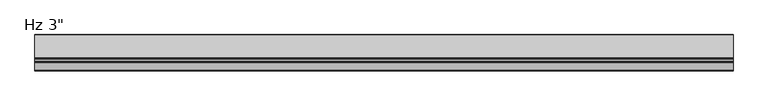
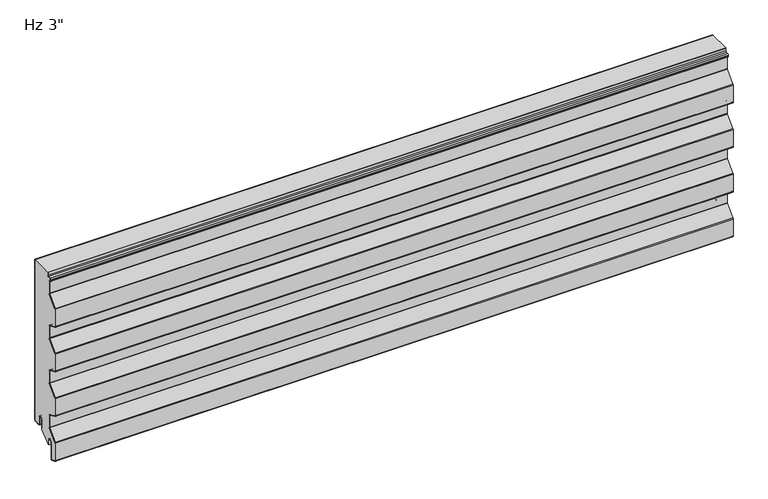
"""IFC4 building model written with IfcOpenShell, lengths in millimetres: plate geometry."""

import ifcopenshell
import ifcopenshell.guid

model = None  # the IFC model being written
_history = None  # IfcOwnerHistory: only IFC2X3 demands one
_inside = {}  # id of a spatial element -> (the spatial element, [elements in it])
_under = {}  # id of a project, library or spatial element -> (it, [spatial elements below it])
_declared = {}  # id of a project -> (the project, [libraries it declares])
_typed = {}  # id of a type object -> (the type object, [elements of that type])
_made_of = {}  # id of a material, layer set ... -> (it, [elements and type objects made of it])


def new_model(schema):
    """Start an empty IFC model of exactly this schema.

    Asked for "IFC4X3", IfcOpenShell would pick the latest addendum, in which some entities
    have other attributes; the version numbers below select the first issue.
    IFC2X3 requires an IfcOwnerHistory on every rooted entity: one is made here for all.
    """
    global model, _history
    if schema == "IFC4X3":
        model = ifcopenshell.file(schema_version=(4, 3, 0, 0))
    else:
        model = ifcopenshell.file(schema=schema)
    _inside.clear()
    _under.clear()
    _declared.clear()
    _typed.clear()
    _made_of.clear()
    _history = None
    if model.schema == "IFC2X3":
        org = make("IfcOrganization", Name="unknown")
        user = make(
            "IfcPersonAndOrganization",
            ThePerson=make("IfcPerson", FamilyName="unknown"),
            TheOrganization=org,
        )
        app = make(
            "IfcApplication",
            ApplicationDeveloper=org,
            Version="unknown",
            ApplicationFullName="unknown",
            ApplicationIdentifier="unknown",
        )
        _history = make(
            "IfcOwnerHistory",
            OwningUser=user,
            OwningApplication=app,
            ChangeAction="ADDED",
            CreationDate=0,
        )
    return model


def make(cls, **values):
    """One entity of the class cls with the attributes given. An attribute that is None is left unset."""
    return model.create_entity(
        cls, **{name: value for name, value in values.items() if value is not None}
    )


def rooted(cls, **values):
    """An entity with a GlobalId (a new one), such as an element, a storey or a relation."""
    return make(cls, GlobalId=ifcopenshell.guid.new(), OwnerHistory=_history, **values)


def si_unit(unit_type, name, prefix=None):
    """IfcSIUnit, for example si_unit("LENGTHUNIT", "METRE", prefix="MILLI")."""
    return make("IfcSIUnit", UnitType=unit_type, Prefix=prefix, Name=name)


def assignment(units):
    """IfcUnitAssignment: the units of a project."""
    return None if units is None else make("IfcUnitAssignment", Units=units)


def point(xyz):
    """IfcCartesianPoint."""
    return None if xyz is None else make("IfcCartesianPoint", Coordinates=xyz)


def direction(xyz):
    """IfcDirection."""
    return None if xyz is None else make("IfcDirection", DirectionRatios=xyz)


def frame(location, z_axis=None, x_axis=None):
    """IfcAxis2Placement3D, a coordinate frame: its origin and axes. An axis left out is left unset."""
    return make(
        "IfcAxis2Placement3D",
        Location=point(location),
        Axis=direction(z_axis),
        RefDirection=direction(x_axis),
    )


def frame_2d(location, x_axis=None):
    """IfcAxis2Placement2D, a coordinate frame in the plane: its origin and x axis."""
    return make(
        "IfcAxis2Placement2D", Location=point(location), RefDirection=direction(x_axis)
    )


def origin():
    """The frame at (0, 0, 0) with its axes left unset."""
    return frame((0.0, 0.0, 0.0))


def place(relative_to, where):
    """IfcLocalPlacement: puts the frame where relative to a parent placement (None: the world)."""
    return make(
        "IfcLocalPlacement", PlacementRelTo=relative_to, RelativePlacement=where
    )


def context(
    kind, dimensions, precision=None, world=None, true_north=None, identifier=None
):
    """IfcGeometricRepresentationContext, for example the 3D "Model" context."""
    return make(
        "IfcGeometricRepresentationContext",
        ContextIdentifier=identifier,
        ContextType=kind,
        CoordinateSpaceDimension=dimensions,
        Precision=precision,
        WorldCoordinateSystem=world,
        TrueNorth=true_north,
    )


def project(units=None, contexts=None):
    """IfcProject with its units and contexts."""
    return rooted(
        "IfcProject",
        Name="project",
        RepresentationContexts=contexts,
        UnitsInContext=assignment(units),
    )


def spatial(cls, under=None, at=None, **own):
    """A site, building, storey or space (cls), placed at a placement, below another one or the project."""
    s = rooted(cls, ObjectPlacement=at, **own)
    if under is not None:
        _under.setdefault(under.id(), (under, []))[1].append(s)
    return s


def polyline(points):
    """IfcPolyline through the points."""
    return make("IfcPolyline", Points=[point(p) for p in points])


def circle_curve(where, radius):
    """IfcCircle in the frame where."""
    return make("IfcCircle", Position=where, Radius=radius)


def trimmed(basis, trim1, trim2, sense, master):
    """IfcTrimmedCurve: the piece of a basis curve between two trims."""
    return make(
        "IfcTrimmedCurve",
        BasisCurve=basis,
        Trim1=trim1,
        Trim2=trim2,
        SenseAgreement=sense,
        MasterRepresentation=master,
    )


def segment(curve, same_sense, transition):
    """IfcCompositeCurveSegment."""
    return make(
        "IfcCompositeCurveSegment",
        Transition=transition,
        SameSense=same_sense,
        ParentCurve=curve,
    )


def composite_curve(segments, self_intersect=None):
    """IfcCompositeCurve: segments joined end to end."""
    return make("IfcCompositeCurve", Segments=segments, SelfIntersect=self_intersect)


def outline(outer, holes=None, kind="AREA"):
    """IfcArbitraryClosedProfileDef: a profile drawn as a closed curve; with holes, ...WithVoids."""
    if holes is None:
        return make("IfcArbitraryClosedProfileDef", ProfileType=kind, OuterCurve=outer)
    return make(
        "IfcArbitraryProfileDefWithVoids",
        ProfileType=kind,
        OuterCurve=outer,
        InnerCurves=holes,
    )


def extrude(swept, where, along, depth):
    """IfcExtrudedAreaSolid: the profile swept, set in the frame where, extruded along a direction by depth."""
    return make(
        "IfcExtrudedAreaSolid",
        SweptArea=swept,
        Position=where,
        ExtrudedDirection=direction(along),
        Depth=depth,
    )


def shape(context_of_items, identifier, shape_type, items):
    """IfcShapeRepresentation: the items that make up one representation, for example the "Body"."""
    return make(
        "IfcShapeRepresentation",
        ContextOfItems=context_of_items,
        RepresentationIdentifier=identifier,
        RepresentationType=shape_type,
        Items=items,
    )


def source(mapping_origin, context_of_items, identifier, shape_type, items):
    """IfcRepresentationMap: a shape defined once, which mapped items show again and again."""
    return make(
        "IfcRepresentationMap",
        MappingOrigin=mapping_origin,
        MappedRepresentation=shape(context_of_items, identifier, shape_type, items),
    )


def transform(
    local_origin,
    x_axis=None,
    y_axis=None,
    z_axis=None,
    scale=None,
    scale2=None,
    scale3=None,
    uniform=True,
):
    """IfcCartesianTransformationOperator3D, or its non-uniform kind. x_axis, y_axis, z_axis: its Axis1, 2, 3."""
    if uniform:
        return make(
            "IfcCartesianTransformationOperator3D",
            Axis1=direction(x_axis),
            Axis2=direction(y_axis),
            LocalOrigin=point(local_origin),
            Scale=scale,
            Axis3=direction(z_axis),
        )
    return make(
        "IfcCartesianTransformationOperator3DnonUniform",
        Axis1=direction(x_axis),
        Axis2=direction(y_axis),
        LocalOrigin=point(local_origin),
        Scale=scale,
        Axis3=direction(z_axis),
        Scale2=scale2,
        Scale3=scale3,
    )


def mapped(mapping_source, mapping_target):
    """IfcMappedItem: shows the shape of a source again, moved by a transform."""
    return make(
        "IfcMappedItem", MappingSource=mapping_source, MappingTarget=mapping_target
    )


def made_of(thing, what):
    """Note that an element or type object is made of a material, layer set ...; save() writes the relation."""
    if what is not None:
        _made_of.setdefault(what.id(), (what, []))[1].append(thing)
    return thing


def element(
    cls,
    number,
    at=None,
    inside=None,
    cuts=None,
    type_object=None,
    material=None,
    context=None,
    identifier="Body",
    shape_type=None,
    held_by="IfcProductDefinitionShape",
    body=None,
    shapes=None,
    **own,
):
    """One element of the class cls, such as IfcWall. Its Tag is "e" and its number.

    at: its placement. inside: the storey or other place that contains it. cuts: it is an
    opening in that element (IfcRelVoidsElement). A single representation is given by context,
    identifier, shape_type and body (its items); several are given by shapes. held_by: the class
    of the entity that holds the representations. save() writes the other relations.
    """
    e = rooted(cls, Tag="e%d" % number, ObjectPlacement=at, **own)
    if body is not None:
        shapes = [shape(context, identifier, shape_type, body)]
    if shapes is not None:
        e.Representation = make(held_by, Representations=shapes)
    if inside is not None:
        _inside.setdefault(inside.id(), (inside, []))[1].append(e)
    if cuts is not None:
        rooted(
            "IfcRelVoidsElement", RelatingBuildingElement=cuts, RelatedOpeningElement=e
        )
    if type_object is not None:
        _typed.setdefault(type_object.id(), (type_object, []))[1].append(e)
    return made_of(e, material)


def aggregate(whole, parts):
    """IfcRelAggregates: a whole, such as a stair, and the parts it consists of."""
    return rooted("IfcRelAggregates", RelatingObject=whole, RelatedObjects=parts)


def save(model, path):
    """Write the relations noted so far, then the file.

    IfcRelAggregates (storeys below a building ...), IfcRelContainedInSpatialStructure (elements
    in a storey), IfcRelDefinesByType, IfcRelAssociatesMaterial and IfcRelDeclares: one each for
    every whole, place, type object, material and project.
    """
    for whole, parts in _under.values():
        aggregate(whole, parts)
    for where, things in _inside.values():
        rooted(
            "IfcRelContainedInSpatialStructure",
            RelatedElements=things,
            RelatingStructure=where,
        )
    for kind, things in _typed.values():
        rooted("IfcRelDefinesByType", RelatedObjects=things, RelatingType=kind)
    for what, things in _made_of.values():
        rooted("IfcRelAssociatesMaterial", RelatedObjects=things, RelatingMaterial=what)
    for by, libraries in _declared.values():
        rooted("IfcRelDeclares", RelatingContext=by, RelatedDefinitions=libraries)
    model.write(path)


def plate_0c2debc7(model_context):
    return source(origin(), model_context, "Body", "SweptSolid", [
        extrude(outline(composite_curve([segment(polyline([(-26.4011912, 19.05), (-26.4011912, -3.1976612), (-49.233822, -23.01875), (-51.3886912, -23.01875), (-51.3886912, -11.90625)]), True, "CONTINUOUS"), segment(trimmed(circle_curve(frame_2d((-56.3574412, -11.90625)), 4.96875), [point((-51.3886912, -11.90625))], [point((-61.3261912, -11.90625))], True, "CARTESIAN"), True, "CONTINUOUS"), segment(polyline([(-61.3261912, -11.90625), (-61.3261912, -48.8194049)]), True, "CONTINUOUS"), segment(trimmed(circle_curve(frame_2d((-62.7074412, -48.8194049)), 1.38125), [point((-61.3261912, -48.8194049))], [point((-63.2666208, -50.0824052))], False, "CARTESIAN"), True, "CONTINUOUS"), segment(polyline([(-63.2666208, -50.0824052), (-74.3779296, -45.1629946)]), True, "CONTINUOUS"), segment(trimmed(circle_curve(frame_2d((-73.81875, -43.8999943)), 1.38125), [point((-74.3779296, -45.1629946))], [point((-75.2, -43.8999943))], False, "CARTESIAN"), True, "CONTINUOUS"), segment(polyline([(-75.2, -43.8999943), (-75.2, -5.0536946)]), True, "CONTINUOUS"), segment(trimmed(circle_curve(frame_2d((-73.1012, -5.0536946)), 2.0988), [point((-75.2, -5.0536946))], [point((-74.6092077, -3.5939431))], False, "CARTESIAN"), True, "CONTINUOUS"), segment(polyline([(-74.6092077, -3.5939431), (-54.4145567, 17.2682996)]), True, "CONTINUOUS"), segment(trimmed(circle_curve(frame_2d((-56.2737, 19.0679503)), 2.5875), [point((-54.4145567, 17.2682996))], [point((-53.6862, 19.0679503))], True, "CARTESIAN"), True, "CONTINUOUS"), segment(polyline([(-53.6862, 19.0679503), (-53.6862, 45.5917981)]), True, "CONTINUOUS"), segment(trimmed(circle_curve(frame_2d((-56.2737, 45.5917981)), 2.5875), [point((-53.6862, 45.5917981))], [point((-55.2261871, 47.9577806))], True, "CARTESIAN"), True, "CONTINUOUS"), segment(polyline([(-55.2261871, 47.9577806), (-74.3779296, 56.4370054)]), True, "CONTINUOUS"), segment(trimmed(circle_curve(frame_2d((-73.81875, 57.7000057)), 1.38125), [point((-74.3779296, 56.4370054))], [point((-75.2, 57.7000057))], False, "CARTESIAN"), True, "CONTINUOUS"), segment(polyline([(-75.2, 57.7000057), (-75.2, 96.8367131)]), True, "CONTINUOUS"), segment(trimmed(circle_curve(frame_2d((-73.81875, 96.8367131)), 1.38125), [point((-75.2, 96.8367131))], [point((-74.8111912, 97.7973962))], False, "CARTESIAN"), True, "CONTINUOUS"), segment(polyline([(-74.8111912, 97.7973962), (-54.4145567, 118.8682996)]), True, "CONTINUOUS"), segment(trimmed(circle_curve(frame_2d((-56.2737, 120.6679503)), 2.5875), [point((-54.4145567, 118.8682996))], [point((-53.6862, 120.6679503))], True, "CARTESIAN"), True, "CONTINUOUS"), segment(polyline([(-53.6862, 120.6679503), (-53.6862, 147.1917981)]), True, "CONTINUOUS"), segment(trimmed(circle_curve(frame_2d((-56.2737, 147.1917981)), 2.5875), [point((-53.6862, 147.1917981))], [point((-55.2261871, 149.5577806))], True, "CARTESIAN"), True, "CONTINUOUS"), segment(polyline([(-55.2261871, 149.5577806), (-74.3779296, 158.0370054)]), True, "CONTINUOUS"), segment(trimmed(circle_curve(frame_2d((-73.81875, 159.3000057)), 1.38125), [point((-74.3779296, 158.0370054))], [point((-75.2, 159.3000057))], False, "CARTESIAN"), True, "CONTINUOUS"), segment(polyline([(-75.2, 159.3000057), (-75.2, 198.4367131)]), True, "CONTINUOUS"), segment(trimmed(circle_curve(frame_2d((-73.81875, 198.4367131)), 1.38125), [point((-75.2, 198.4367131))], [point((-74.8111912, 199.3973962))], False, "CARTESIAN"), True, "CONTINUOUS"), segment(polyline([(-74.8111912, 199.3973962), (-54.4145567, 220.4682996)]), True, "CONTINUOUS"), segment(trimmed(circle_curve(frame_2d((-56.2737, 222.2679503)), 2.5875), [point((-54.4145567, 220.4682996))], [point((-53.6862, 222.2679503))], True, "CARTESIAN"), True, "CONTINUOUS"), segment(polyline([(-53.6862, 222.2679503), (-53.6862, 248.7917981)]), True, "CONTINUOUS"), segment(trimmed(circle_curve(frame_2d((-56.2737, 248.7917981)), 2.5875), [point((-53.6862, 248.7917981))], [point((-55.2261871, 251.1577806))], True, "CARTESIAN"), True, "CONTINUOUS"), segment(polyline([(-55.2261871, 251.1577806), (-74.3779296, 259.6370054)]), True, "CONTINUOUS"), segment(trimmed(circle_curve(frame_2d((-73.81875, 260.9000057)), 1.38125), [point((-74.3779296, 259.6370054))], [point((-75.2, 260.9000057))], False, "CARTESIAN"), True, "CONTINUOUS"), segment(polyline([(-75.2, 260.9000057), (-75.2, 300.0367131)]), True, "CONTINUOUS"), segment(trimmed(circle_curve(frame_2d((-73.81875, 300.0367131)), 1.38125), [point((-75.2, 300.0367131))], [point((-74.8111912, 300.9973962))], False, "CARTESIAN"), True, "CONTINUOUS"), segment(polyline([(-74.8111912, 300.9973962), (-54.4145567, 322.0682996)]), True, "CONTINUOUS"), segment(trimmed(circle_curve(frame_2d((-56.2737, 323.8679503)), 2.5875), [point((-54.4145567, 322.0682996))], [point((-53.6862, 323.8679503))], True, "CARTESIAN"), True, "CONTINUOUS"), segment(polyline([(-53.6862, 323.8679503), (-53.6862, 350.3917981)]), True, "CONTINUOUS"), segment(trimmed(circle_curve(frame_2d((-56.2737, 350.3917981)), 2.5875), [point((-53.6862, 350.3917981))], [point((-55.2261871, 352.7577806))], True, "CARTESIAN"), True, "CONTINUOUS"), segment(polyline([(-55.2261871, 352.7577806), (-56.9166208, 353.5062016)]), True, "CONTINUOUS"), segment(trimmed(circle_curve(frame_2d((-56.3574412, 354.7692019)), 1.38125), [point((-56.9166208, 353.5062016))], [point((-57.7386912, 354.7692019))], False, "CARTESIAN"), True, "CONTINUOUS"), segment(polyline([(-57.7386912, 354.7692019), (-57.7386912, 357.0967085)]), True, "CONTINUOUS"), segment(trimmed(circle_curve(frame_2d((-56.3574412, 357.0967085)), 1.38125), [point((-57.7386912, 357.0967085))], [point((-56.4297302, 358.4760655))], False, "CARTESIAN"), True, "CONTINUOUS"), segment(polyline([(-56.4297302, 358.4760655), (-50.6657719, 358.7781418)]), True, "CONTINUOUS"), segment(trimmed(circle_curve(frame_2d((-50.8011912, 361.3620957)), 2.5875), [point((-50.6657719, 358.7781418))], [point((-48.2136912, 361.3620957))], True, "CARTESIAN"), True, "CONTINUOUS"), segment(polyline([(-48.2136912, 361.3620957), (-48.2136912, 368.0), (-1.0011912, 368.0), (-1.0011912, 3.175)]), True, "CONTINUOUS"), segment(trimmed(circle_curve(frame_2d((-2.3824412, 3.175)), 1.38125), [point((-1.0011912, 3.175))], [point((-2.3824412, 1.79375))], False, "CARTESIAN"), True, "CONTINUOUS"), segment(polyline([(-2.3824412, 1.79375), (-15.0824412, 1.79375)]), True, "CONTINUOUS"), segment(trimmed(circle_curve(frame_2d((-15.0824412, 3.175)), 1.38125), [point((-15.0824412, 1.79375))], [point((-16.4636912, 3.175))], False, "CARTESIAN"), True, "CONTINUOUS"), segment(polyline([(-16.4636912, 3.175), (-16.4636912, 19.05)]), True, "CONTINUOUS"), segment(trimmed(circle_curve(frame_2d((-21.4324412, 19.05)), 4.96875), [point((-16.4636912, 19.05))], [point((-26.4011912, 19.05))], True, "CARTESIAN"), True, "CONTINUOUS")], self_intersect=False)), frame((-730.0, 0.0, 0.0), z_axis=(1.0, 0.0, 0.0), x_axis=(0.0, 1.0, 0.0)), (0.0, 0.0, 1.0), 1460.0),
        extrude(outline(composite_curve([segment(polyline([(-25.4, 0.79375), (-26.4, 0.79375), (-26.4, 19.05)]), True, "CONTINUOUS"), segment(trimmed(circle_curve(frame_2d((-21.43125, 19.05)), 4.96875), [point((-26.4, 19.05))], [point((-16.4625, 19.05))], False, "CARTESIAN"), True, "CONTINUOUS"), segment(polyline([(-16.4625, 19.05), (-16.4625, 3.175)]), True, "CONTINUOUS"), segment(trimmed(circle_curve(frame_2d((-15.08125, 3.175)), 1.38125), [point((-16.4625, 3.175))], [point((-15.08125, 1.79375))], True, "CARTESIAN"), True, "CONTINUOUS"), segment(polyline([(-15.08125, 1.79375), (-2.38125, 1.79375)]), True, "CONTINUOUS"), segment(trimmed(circle_curve(frame_2d((-2.38125, 3.175)), 1.38125), [point((-2.38125, 1.79375))], [point((-1.0, 3.175))], True, "CARTESIAN"), True, "CONTINUOUS"), segment(polyline([(-1.0, 3.175), (-1.0, 368.0), (0.0, 368.0), (0.0, 3.175)]), True, "CONTINUOUS"), segment(trimmed(circle_curve(frame_2d((-2.38125, 3.175)), 2.38125), [point((0.0, 3.175))], [point((-2.38125, 0.79375))], False, "CARTESIAN"), True, "CONTINUOUS"), segment(polyline([(-2.38125, 0.79375), (-15.08125, 0.79375)]), True, "CONTINUOUS"), segment(trimmed(circle_curve(frame_2d((-15.08125, 3.175)), 2.38125), [point((-15.08125, 0.79375))], [point((-17.4625, 3.175))], False, "CARTESIAN"), True, "CONTINUOUS"), segment(polyline([(-17.4625, 3.175), (-17.4625, 19.05)]), True, "CONTINUOUS"), segment(trimmed(circle_curve(frame_2d((-21.43125, 19.05)), 3.96875), [point((-17.4625, 19.05))], [point((-25.4, 19.05))], True, "CARTESIAN"), True, "CONTINUOUS"), segment(polyline([(-25.4, 19.05), (-25.4, 0.79375)]), True, "CONTINUOUS")], self_intersect=False)), frame((-730.0, 0.0, 0.0), z_axis=(1.0, 0.0, 0.0), x_axis=(0.0, 1.0, 0.0)), (0.0, 0.0, 1.0), 1460.0),
        extrude(outline(composite_curve([segment(polyline([(-60.3261912, -11.90625), (-60.3261912, -48.8194049)]), True, "CONTINUOUS"), segment(trimmed(circle_curve(frame_2d((-62.7074412, -48.8194049)), 2.38125), [point((-60.3261912, -48.8194049))], [point((-63.6714567, -50.9967946))], False, "CARTESIAN"), True, "CONTINUOUS"), segment(polyline([(-63.6714567, -50.9967946), (-74.7827655, -46.0773839)]), True, "CONTINUOUS"), segment(trimmed(circle_curve(frame_2d((-73.81875, -43.8999943)), 2.38125), [point((-74.7827655, -46.0773839))], [point((-76.2, -43.8999943))], False, "CARTESIAN"), True, "CONTINUOUS"), segment(polyline([(-76.2, -43.8999943), (-76.2, -5.0536946)]), True, "CONTINUOUS"), segment(trimmed(circle_curve(frame_2d((-73.1012, -5.0536946)), 3.0988), [point((-76.2, -5.0536946))], [point((-75.3277172, -2.8984259))], False, "CARTESIAN"), True, "CONTINUOUS"), segment(polyline([(-75.3277172, -2.8984259), (-55.1330662, 17.9638168)]), True, "CONTINUOUS"), segment(trimmed(circle_curve(frame_2d((-56.2737, 19.0679503)), 1.5875), [point((-55.1330662, 17.9638168))], [point((-54.6862, 19.0679503))], True, "CARTESIAN"), True, "CONTINUOUS"), segment(polyline([(-54.6862, 19.0679503), (-54.6862, 45.5917981)]), True, "CONTINUOUS"), segment(trimmed(circle_curve(frame_2d((-56.2737, 45.5917981)), 1.5875), [point((-54.6862, 45.5917981))], [point((-55.631023, 47.0433912))], True, "CARTESIAN"), True, "CONTINUOUS"), segment(polyline([(-55.631023, 47.0433912), (-74.7827655, 55.5226161)]), True, "CONTINUOUS"), segment(trimmed(circle_curve(frame_2d((-73.81875, 57.7000057)), 2.38125), [point((-74.7827655, 55.5226161))], [point((-76.2, 57.7000057))], False, "CARTESIAN"), True, "CONTINUOUS"), segment(polyline([(-76.2, 57.7000057), (-76.2, 96.8367131)]), True, "CONTINUOUS"), segment(trimmed(circle_curve(frame_2d((-73.81875, 96.8367131)), 2.38125), [point((-76.2, 96.8367131))], [point((-75.5297007, 98.4929134))], False, "CARTESIAN"), True, "CONTINUOUS"), segment(polyline([(-75.5297007, 98.4929134), (-55.1330662, 119.5638168)]), True, "CONTINUOUS"), segment(trimmed(circle_curve(frame_2d((-56.2737, 120.6679503)), 1.5875), [point((-55.1330662, 119.5638168))], [point((-54.6862, 120.6679503))], True, "CARTESIAN"), True, "CONTINUOUS"), segment(polyline([(-54.6862, 120.6679503), (-54.6862, 147.1917981)]), True, "CONTINUOUS"), segment(trimmed(circle_curve(frame_2d((-56.2737, 147.1917981)), 1.5875), [point((-54.6862, 147.1917981))], [point((-55.631023, 148.6433912))], True, "CARTESIAN"), True, "CONTINUOUS"), segment(polyline([(-55.631023, 148.6433912), (-74.7827655, 157.1226161)]), True, "CONTINUOUS"), segment(trimmed(circle_curve(frame_2d((-73.81875, 159.3000057)), 2.38125), [point((-74.7827655, 157.1226161))], [point((-76.2, 159.3000057))], False, "CARTESIAN"), True, "CONTINUOUS"), segment(polyline([(-76.2, 159.3000057), (-76.2, 198.4367131)]), True, "CONTINUOUS"), segment(trimmed(circle_curve(frame_2d((-73.81875, 198.4367131)), 2.38125), [point((-76.2, 198.4367131))], [point((-75.5297007, 200.0929134))], False, "CARTESIAN"), True, "CONTINUOUS"), segment(polyline([(-75.5297007, 200.0929134), (-55.1330662, 221.1638168)]), True, "CONTINUOUS"), segment(trimmed(circle_curve(frame_2d((-56.2737, 222.2679503)), 1.5875), [point((-55.1330662, 221.1638168))], [point((-54.6862, 222.2679503))], True, "CARTESIAN"), True, "CONTINUOUS"), segment(polyline([(-54.6862, 222.2679503), (-54.6862, 248.7917981)]), True, "CONTINUOUS"), segment(trimmed(circle_curve(frame_2d((-56.2737, 248.7917981)), 1.5875), [point((-54.6862, 248.7917981))], [point((-55.631023, 250.2433912))], True, "CARTESIAN"), True, "CONTINUOUS"), segment(polyline([(-55.631023, 250.2433912), (-74.7827655, 258.7226161)]), True, "CONTINUOUS"), segment(trimmed(circle_curve(frame_2d((-73.81875, 260.9000057)), 2.38125), [point((-74.7827655, 258.7226161))], [point((-76.2, 260.9000057))], False, "CARTESIAN"), True, "CONTINUOUS"), segment(polyline([(-76.2, 260.9000057), (-76.2, 300.0367131)]), True, "CONTINUOUS"), segment(trimmed(circle_curve(frame_2d((-73.81875, 300.0367131)), 2.38125), [point((-76.2, 300.0367131))], [point((-75.5297007, 301.6929134))], False, "CARTESIAN"), True, "CONTINUOUS"), segment(polyline([(-75.5297007, 301.6929134), (-55.1330662, 322.7638168)]), True, "CONTINUOUS"), segment(trimmed(circle_curve(frame_2d((-56.2737, 323.8679503)), 1.5875), [point((-55.1330662, 322.7638168))], [point((-54.6862, 323.8679503))], True, "CARTESIAN"), True, "CONTINUOUS"), segment(polyline([(-54.6862, 323.8679503), (-54.6862, 350.3917981)]), True, "CONTINUOUS"), segment(trimmed(circle_curve(frame_2d((-56.2737, 350.3917981)), 1.5875), [point((-54.6862, 350.3917981))], [point((-55.631023, 351.8433912))], True, "CARTESIAN"), True, "CONTINUOUS"), segment(polyline([(-55.631023, 351.8433912), (-57.3214567, 352.5918123)]), True, "CONTINUOUS"), segment(trimmed(circle_curve(frame_2d((-56.3574412, 354.7692019)), 2.38125), [point((-57.3214567, 352.5918123))], [point((-58.7386912, 354.7692019))], False, "CARTESIAN"), True, "CONTINUOUS"), segment(polyline([(-58.7386912, 354.7692019), (-58.7386912, 357.0967085)]), True, "CONTINUOUS"), segment(trimmed(circle_curve(frame_2d((-56.3574412, 357.0967085)), 2.38125), [point((-58.7386912, 357.0967085))], [point((-56.4820662, 359.4746951))], False, "CARTESIAN"), True, "CONTINUOUS"), segment(polyline([(-56.4820662, 359.4746951), (-50.7181078, 359.7767713)]), True, "CONTINUOUS"), segment(trimmed(circle_curve(frame_2d((-50.8011912, 361.3620957)), 1.5875), [point((-50.7181078, 359.7767713))], [point((-49.2136912, 361.3620957))], True, "CARTESIAN"), True, "CONTINUOUS"), segment(polyline([(-49.2136912, 361.3620957), (-49.2136912, 368.0), (-48.2136912, 368.0), (-48.2136912, 361.3620957)]), True, "CONTINUOUS"), segment(trimmed(circle_curve(frame_2d((-50.8011912, 361.3620957)), 2.5875), [point((-48.2136912, 361.3620957))], [point((-50.6657719, 358.7781418))], False, "CARTESIAN"), True, "CONTINUOUS"), segment(polyline([(-50.6657719, 358.7781418), (-56.4297302, 358.4760655)]), True, "CONTINUOUS"), segment(trimmed(circle_curve(frame_2d((-56.3574412, 357.0967085)), 1.38125), [point((-56.4297302, 358.4760655))], [point((-57.7386912, 357.0967085))], True, "CARTESIAN"), True, "CONTINUOUS"), segment(polyline([(-57.7386912, 357.0967085), (-57.7386912, 354.7692019)]), True, "CONTINUOUS"), segment(trimmed(circle_curve(frame_2d((-56.3574412, 354.7692019)), 1.38125), [point((-57.7386912, 354.7692019))], [point((-56.9166208, 353.5062016))], True, "CARTESIAN"), True, "CONTINUOUS"), segment(polyline([(-56.9166208, 353.5062016), (-55.2261871, 352.7577806)]), True, "CONTINUOUS"), segment(trimmed(circle_curve(frame_2d((-56.2737, 350.3917981)), 2.5875), [point((-55.2261871, 352.7577806))], [point((-53.6862, 350.3917981))], False, "CARTESIAN"), True, "CONTINUOUS"), segment(polyline([(-53.6862, 350.3917981), (-53.6862, 323.8679503)]), True, "CONTINUOUS"), segment(trimmed(circle_curve(frame_2d((-56.2737, 323.8679503)), 2.5875), [point((-53.6862, 323.8679503))], [point((-54.4145567, 322.0682996))], False, "CARTESIAN"), True, "CONTINUOUS"), segment(polyline([(-54.4145567, 322.0682996), (-74.8111912, 300.9973962)]), True, "CONTINUOUS"), segment(trimmed(circle_curve(frame_2d((-73.81875, 300.0367131)), 1.38125), [point((-74.8111912, 300.9973962))], [point((-75.2, 300.0367131))], True, "CARTESIAN"), True, "CONTINUOUS"), segment(polyline([(-75.2, 300.0367131), (-75.2, 260.9000057)]), True, "CONTINUOUS"), segment(trimmed(circle_curve(frame_2d((-73.81875, 260.9000057)), 1.38125), [point((-75.2, 260.9000057))], [point((-74.3779296, 259.6370054))], True, "CARTESIAN"), True, "CONTINUOUS"), segment(polyline([(-74.3779296, 259.6370054), (-55.2261871, 251.1577806)]), True, "CONTINUOUS"), segment(trimmed(circle_curve(frame_2d((-56.2737, 248.7917981)), 2.5875), [point((-55.2261871, 251.1577806))], [point((-53.6862, 248.7917981))], False, "CARTESIAN"), True, "CONTINUOUS"), segment(polyline([(-53.6862, 248.7917981), (-53.6862, 222.2679503)]), True, "CONTINUOUS"), segment(trimmed(circle_curve(frame_2d((-56.2737, 222.2679503)), 2.5875), [point((-53.6862, 222.2679503))], [point((-54.4145567, 220.4682996))], False, "CARTESIAN"), True, "CONTINUOUS"), segment(polyline([(-54.4145567, 220.4682996), (-74.8111912, 199.3973962)]), True, "CONTINUOUS"), segment(trimmed(circle_curve(frame_2d((-73.81875, 198.4367131)), 1.38125), [point((-74.8111912, 199.3973962))], [point((-75.2, 198.4367131))], True, "CARTESIAN"), True, "CONTINUOUS"), segment(polyline([(-75.2, 198.4367131), (-75.2, 159.3000057)]), True, "CONTINUOUS"), segment(trimmed(circle_curve(frame_2d((-73.81875, 159.3000057)), 1.38125), [point((-75.2, 159.3000057))], [point((-74.3779296, 158.0370054))], True, "CARTESIAN"), True, "CONTINUOUS"), segment(polyline([(-74.3779296, 158.0370054), (-55.2261871, 149.5577806)]), True, "CONTINUOUS"), segment(trimmed(circle_curve(frame_2d((-56.2737, 147.1917981)), 2.5875), [point((-55.2261871, 149.5577806))], [point((-53.6862, 147.1917981))], False, "CARTESIAN"), True, "CONTINUOUS"), segment(polyline([(-53.6862, 147.1917981), (-53.6862, 120.6679503)]), True, "CONTINUOUS"), segment(trimmed(circle_curve(frame_2d((-56.2737, 120.6679503)), 2.5875), [point((-53.6862, 120.6679503))], [point((-54.4145567, 118.8682996))], False, "CARTESIAN"), True, "CONTINUOUS"), segment(polyline([(-54.4145567, 118.8682996), (-74.8111912, 97.7973962)]), True, "CONTINUOUS"), segment(trimmed(circle_curve(frame_2d((-73.81875, 96.8367131)), 1.38125), [point((-74.8111912, 97.7973962))], [point((-75.2, 96.8367131))], True, "CARTESIAN"), True, "CONTINUOUS"), segment(polyline([(-75.2, 96.8367131), (-75.2, 57.7000057)]), True, "CONTINUOUS"), segment(trimmed(circle_curve(frame_2d((-73.81875, 57.7000057)), 1.38125), [point((-75.2, 57.7000057))], [point((-74.3779296, 56.4370054))], True, "CARTESIAN"), True, "CONTINUOUS"), segment(polyline([(-74.3779296, 56.4370054), (-55.2261871, 47.9577806)]), True, "CONTINUOUS"), segment(trimmed(circle_curve(frame_2d((-56.2737, 45.5917981)), 2.5875), [point((-55.2261871, 47.9577806))], [point((-53.6862, 45.5917981))], False, "CARTESIAN"), True, "CONTINUOUS"), segment(polyline([(-53.6862, 45.5917981), (-53.6862, 19.0679503)]), True, "CONTINUOUS"), segment(trimmed(circle_curve(frame_2d((-56.2737, 19.0679503)), 2.5875), [point((-53.6862, 19.0679503))], [point((-54.4145567, 17.2682996))], False, "CARTESIAN"), True, "CONTINUOUS"), segment(polyline([(-54.4145567, 17.2682996), (-74.6092077, -3.5939431)]), True, "CONTINUOUS"), segment(trimmed(circle_curve(frame_2d((-73.1012, -5.0536946)), 2.0988), [point((-74.6092077, -3.5939431))], [point((-75.2, -5.0536946))], True, "CARTESIAN"), True, "CONTINUOUS"), segment(polyline([(-75.2, -5.0536946), (-75.2, -43.8999943)]), True, "CONTINUOUS"), segment(trimmed(circle_curve(frame_2d((-73.81875, -43.8999943)), 1.38125), [point((-75.2, -43.8999943))], [point((-74.3779296, -45.1629946))], True, "CARTESIAN"), True, "CONTINUOUS"), segment(polyline([(-74.3779296, -45.1629946), (-63.2666208, -50.0824052)]), True, "CONTINUOUS"), segment(trimmed(circle_curve(frame_2d((-62.7074412, -48.8194049)), 1.38125), [point((-63.2666208, -50.0824052))], [point((-61.3261912, -48.8194049))], True, "CARTESIAN"), True, "CONTINUOUS"), segment(polyline([(-61.3261912, -48.8194049), (-61.3261912, -11.90625)]), True, "CONTINUOUS"), segment(trimmed(circle_curve(frame_2d((-56.3574412, -11.90625)), 4.96875), [point((-61.3261912, -11.90625))], [point((-51.3886912, -11.90625))], False, "CARTESIAN"), True, "CONTINUOUS"), segment(polyline([(-51.3886912, -11.90625), (-51.3886912, -23.01875), (-52.3886912, -23.01875), (-52.3886912, -11.90625)]), True, "CONTINUOUS"), segment(trimmed(circle_curve(frame_2d((-56.3574412, -11.90625)), 3.96875), [point((-52.3886912, -11.90625))], [point((-60.3261912, -11.90625))], True, "CARTESIAN"), True, "CONTINUOUS")], self_intersect=False)), frame((-730.0, 0.0, 0.0), z_axis=(1.0, 0.0, 0.0), x_axis=(0.0, 1.0, 0.0)), (0.0, 0.0, 1.0), 1460.0),
    ])


if __name__ == "__main__":
    model = new_model("IFC4")
    model_context = context("Model", 3, world=origin())
    ifc_project = project(units=[si_unit("LENGTHUNIT", "METRE", prefix="MILLI")], contexts=[model_context])
    site = spatial("IfcSite", under=ifc_project)
    building = spatial("IfcBuilding", under=site)
    placement = place(None, origin())
    plate_shape = plate_0c2debc7(model_context)
    element("IfcPlate", 1, ObjectType="KIP-16-DWR-R19-CP-Hz-S : Hz 3\"", at=placement, inside=building, context=model_context, shape_type="MappedRepresentation", body=[
        mapped(plate_shape, transform((0.0, 0.0, 0.0), x_axis=(1.0, 0.0, 0.0), y_axis=(0.0, 1.0, 0.0), z_axis=(0.0, 0.0, 1.0))),
    ])
    save(model, "model.ifc")
